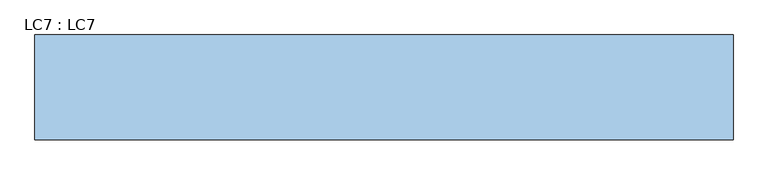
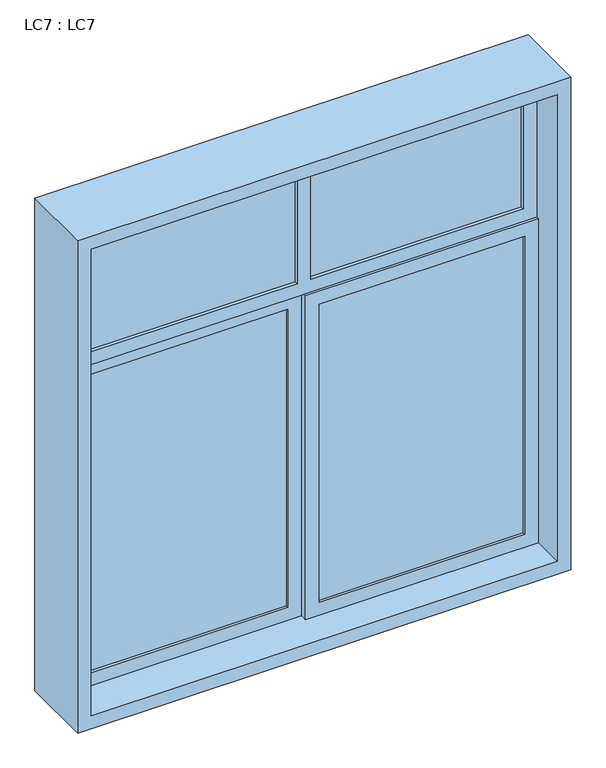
"""IFC4 building model written with IfcOpenShell, lengths in millimetres: window geometry, LC7 : LC7."""

from ifc_helpers import new_model, si_unit, frame, origin, place, context, project, spatial, polyline, outline, extrude, source, transform, mapped, element, save


def lc7_lc7_110692fb(model_context):
    return source(origin(), model_context, "Body", "SweptSolid", [
        extrude(outline(polyline([(800.0, -10.0304494), (800.0, -15.0304494), (50.0, -15.0304494), (50.0, -10.0304494), (800.0, -10.0304494)])), frame((0.0, 0.0, 1600.0), z_axis=(0.0, 0.0, 1.0), x_axis=(1.0, 0.0, 0.0)), (0.0, 0.0, 1.0), 1150.0),
        extrude(outline(polyline([(-50.0, 14.9391013), (-50.0, 9.9695506), (-800.0, 9.9695506), (-800.0, 14.9391013), (-50.0, 14.9391013)])), frame((0.0, 0.0, 1600.0), z_axis=(0.0, 0.0, 1.0), x_axis=(1.0, 0.0, 0.0)), (0.0, 0.0, 1.0), 1150.0),
        extrude(outline(polyline([(-25.0, 2.5), (-25.0, -2.5), (-800.0, -2.5), (-800.0, 2.5), (-25.0, 2.5)])), frame((0.0, 0.0, 2850.0), z_axis=(0.0, 0.0, 1.0), x_axis=(1.0, 0.0, 0.0)), (0.0, 0.0, 1.0), 450.0),
        extrude(outline(polyline([(800.0, 2.5), (800.0, -2.5), (25.0, -2.5), (25.0, 2.5), (800.0, 2.5)])), frame((0.0, 0.0, 2850.0), z_axis=(0.0, 0.0, 1.0), x_axis=(1.0, 0.0, 0.0)), (0.0, 0.0, 1.0), 450.0),
        extrude(outline(polyline([(2800.0, 850.0), (2800.0, 0.0), (1550.0, 0.0), (1550.0, 850.0), (2800.0, 850.0)]), holes=[polyline([(2750.0, 800.0), (1600.0, 800.0), (1600.0, 50.0), (2750.0, 50.0), (2750.0, 800.0)])]), frame((0.0, -25.0, 0.0), z_axis=(0.0, 1.0, 0.0), x_axis=(0.0, 0.0, 1.0)), (0.0, 0.0, 1.0), 24.9695506),
        extrude(outline(polyline([(2800.0, 0.0), (2800.0, -850.0), (1550.0, -850.0), (1550.0, 0.0), (2800.0, 0.0)]), holes=[polyline([(2750.0, -50.0), (1600.0, -50.0), (1600.0, -800.0), (2750.0, -800.0), (2750.0, -50.0)])]), frame((0.0, 0.0, 0.0), z_axis=(0.0, 1.0, 0.0), x_axis=(0.0, 0.0, 1.0)), (0.0, 0.0, 1.0), 24.9391013),
        extrude(outline(polyline([(3350.0, 850.0), (3350.0, -850.0), (2800.0, -850.0), (2800.0, 1.4599267), (2800.0, 850.0), (3350.0, 850.0)]), holes=[polyline([(3300.0, -25.0), (2850.0, -25.0), (2850.0, -800.0), (3300.0, -800.0), (3300.0, -25.0)]), polyline([(3300.0, 800.0), (2850.0, 800.0), (2850.0, 25.0), (3300.0, 25.0), (3300.0, 800.0)])]), frame((0.0, -15.0, 0.0), z_axis=(0.0, 1.0, 0.0), x_axis=(0.0, 0.0, 1.0)), (0.0, 0.0, 1.0), 100.0),
        extrude(outline(polyline([(3400.0, 900.0), (3400.0, -900.0), (1500.0, -900.0), (1500.0, 900.0), (3400.0, 900.0)]), holes=[polyline([(3350.0, 850.0), (1550.0, 850.0), (1550.0, -850.0), (3350.0, -850.0), (3350.0, 850.0)])]), frame((0.0, -143.6988661, 0.0), z_axis=(0.0, 1.0, 0.0), x_axis=(0.0, 0.0, 1.0)), (0.0, 0.0, 1.0), 270.0),
    ])


if __name__ == "__main__":
    model = new_model("IFC4")
    model_context = context("Model", 3, world=origin())
    ifc_project = project(units=[si_unit("LENGTHUNIT", "METRE", prefix="MILLI")], contexts=[model_context])
    site = spatial("IfcSite", under=ifc_project)
    building = spatial("IfcBuilding", under=site)
    placement = place(None, origin())
    lc7_lc7_shape = lc7_lc7_110692fb(model_context)
    element("IfcWindow", 1, ObjectType="LC7 : LC7", at=placement, inside=building, context=model_context, shape_type="MappedRepresentation", body=[
        mapped(lc7_lc7_shape, transform((0.0, 0.0, 0.0), x_axis=(1.0, 0.0, 0.0), y_axis=(0.0, 1.0, 0.0), z_axis=(0.0, 0.0, 1.0))),
    ])
    save(model, "model.ifc")
